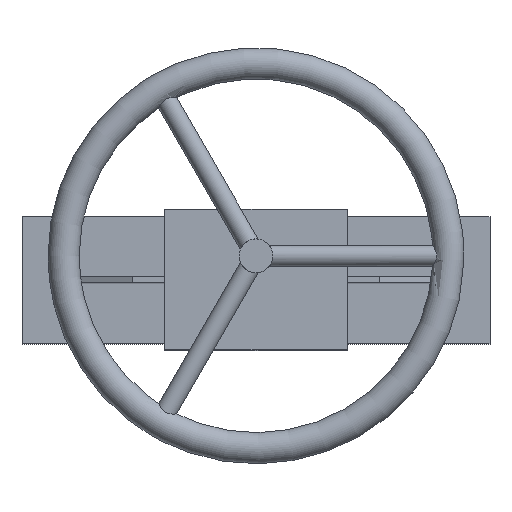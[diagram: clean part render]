
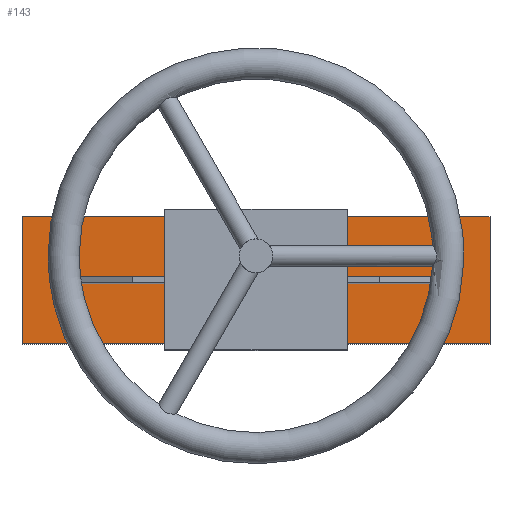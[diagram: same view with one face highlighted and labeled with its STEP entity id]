
A CAD part, top view. The second image highlights one B-rep face of the part: STEP entity #143.
In plain terms, the highlighted planar face has unit normal (0, 0, 1).
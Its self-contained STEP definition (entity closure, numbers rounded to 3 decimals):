
#143=ADVANCED_FACE('',(#1184,#1186,#1188),#1190,.T.);
#1184=FACE_BOUND('',#1185,.T.);
#1185=EDGE_LOOP('',(#2089,#2090,#2091,#2092,#2093,#2094,#2095,#2096));
#1186=FACE_BOUND('',#1187,.T.);
#1187=EDGE_LOOP('',(#2097,#2098,#2099,#2100));
#1188=FACE_BOUND('',#1189,.T.);
#1189=EDGE_LOOP('',(#2101));
#1190=PLANE('',#1191);
#1191=AXIS2_PLACEMENT_3D('',#1192,#1193,#1194);
#1192=CARTESIAN_POINT('',(0.,0.,280.));
#1193=DIRECTION('',(0.,0.,1.));
#1194=DIRECTION('',(1.,0.,0.));
#2089=ORIENTED_EDGE('',*,*,#2631,.F.);
#2090=ORIENTED_EDGE('',*,*,#2632,.T.);
#2091=ORIENTED_EDGE('',*,*,#2633,.T.);
#2092=ORIENTED_EDGE('',*,*,#2634,.T.);
#2093=ORIENTED_EDGE('',*,*,#2635,.F.);
#2094=ORIENTED_EDGE('',*,*,#2636,.T.);
#2095=ORIENTED_EDGE('',*,*,#2637,.T.);
#2096=ORIENTED_EDGE('',*,*,#2638,.T.);
#2097=ORIENTED_EDGE('',*,*,#2639,.F.);
#2098=ORIENTED_EDGE('',*,*,#2621,.F.);
#2099=ORIENTED_EDGE('',*,*,#2640,.F.);
#2100=ORIENTED_EDGE('',*,*,#2597,.F.);
#2101=ORIENTED_EDGE('',*,*,#2614,.F.);
#2597=EDGE_CURVE('',#2878,#2880,#2881,.T.);
#2614=EDGE_CURVE('',#2911,#2911,#2912,.F.);
#2621=EDGE_CURVE('',#2922,#2924,#2925,.F.);
#2631=EDGE_CURVE('',#2939,#2940,#2941,.T.);
#2632=EDGE_CURVE('',#2939,#2942,#2943,.T.);
#2633=EDGE_CURVE('',#2942,#2944,#2945,.T.);
#2634=EDGE_CURVE('',#2944,#2946,#2947,.T.);
#2635=EDGE_CURVE('',#2948,#2946,#2949,.T.);
#2636=EDGE_CURVE('',#2948,#2950,#2951,.T.);
#2637=EDGE_CURVE('',#2950,#2952,#2953,.T.);
#2638=EDGE_CURVE('',#2952,#2940,#2954,.T.);
#2639=EDGE_CURVE('',#2924,#2878,#2955,.T.);
#2640=EDGE_CURVE('',#2880,#2922,#2956,.T.);
#2878=VERTEX_POINT('',#3360);
#2880=VERTEX_POINT('',#3364);
#2881=LINE('',#3365,#3366);
#2911=VERTEX_POINT('',#3432);
#2912=CIRCLE('',#3433,13.);
#2922=VERTEX_POINT('',#3456);
#2924=VERTEX_POINT('',#3460);
#2925=LINE('',#3461,#3462);
#2939=VERTEX_POINT('',#3495);
#2940=VERTEX_POINT('',#3496);
#2941=LINE('',#3497,#3498);
#2942=VERTEX_POINT('',#3500);
#2943=LINE('',#3501,#3502);
#2944=VERTEX_POINT('',#3504);
#2945=LINE('',#3505,#3506);
#2946=VERTEX_POINT('',#3508);
#2947=LINE('',#3509,#3510);
#2948=VERTEX_POINT('',#3512);
#2949=LINE('',#3513,#3514);
#2950=VERTEX_POINT('',#3516);
#2951=LINE('',#3517,#3518);
#2952=VERTEX_POINT('',#3520);
#2953=LINE('',#3521,#3522);
#2954=LINE('',#3524,#3525);
#2955=LINE('',#3527,#3528);
#2956=LINE('',#3530,#3531);
#3360=CARTESIAN_POINT('',(-135.,-2.5,280.));
#3364=CARTESIAN_POINT('',(135.,-2.5,280.));
#3365=CARTESIAN_POINT('',(-135.,-2.5,280.));
#3366=VECTOR('',#3367,1.);
#3367=DIRECTION('',(1.,0.,0.));
#3432=CARTESIAN_POINT('',(0.,31.,280.));
#3433=AXIS2_PLACEMENT_3D('',#3434,#3435,#3436);
#3434=CARTESIAN_POINT('',(0.,18.,280.));
#3435=DIRECTION('',(-0.,-0.,-1.));
#3436=DIRECTION('',(0.,1.,0.));
#3456=CARTESIAN_POINT('',(135.,2.5,280.));
#3460=CARTESIAN_POINT('',(-135.,2.5,280.));
#3461=CARTESIAN_POINT('',(-135.,2.5,280.));
#3462=VECTOR('',#3463,1.);
#3463=DIRECTION('',(1.,0.,0.));
#3495=CARTESIAN_POINT('',(70.,-49.,280.));
#3496=CARTESIAN_POINT('',(-70.,-49.,280.));
#3497=CARTESIAN_POINT('',(70.,-49.,280.));
#3498=VECTOR('',#3499,1.);
#3499=DIRECTION('',(-1.,0.,0.));
#3500=CARTESIAN_POINT('',(180.,-49.,280.));
#3501=CARTESIAN_POINT('',(70.,-49.,280.));
#3502=VECTOR('',#3503,1.);
#3503=DIRECTION('',(1.,0.,0.));
#3504=CARTESIAN_POINT('',(180.,49.,280.));
#3505=CARTESIAN_POINT('',(180.,-49.,280.));
#3506=VECTOR('',#3507,1.);
#3507=DIRECTION('',(0.,1.,0.));
#3508=CARTESIAN_POINT('',(70.,49.,280.));
#3509=CARTESIAN_POINT('',(180.,49.,280.));
#3510=VECTOR('',#3511,1.);
#3511=DIRECTION('',(-1.,0.,0.));
#3512=CARTESIAN_POINT('',(-70.,49.,280.));
#3513=CARTESIAN_POINT('',(-70.,49.,280.));
#3514=VECTOR('',#3515,1.);
#3515=DIRECTION('',(1.,0.,0.));
#3516=CARTESIAN_POINT('',(-180.,49.,280.));
#3517=CARTESIAN_POINT('',(-70.,49.,280.));
#3518=VECTOR('',#3519,1.);
#3519=DIRECTION('',(-1.,0.,0.));
#3520=CARTESIAN_POINT('',(-180.,-49.,280.));
#3521=CARTESIAN_POINT('',(-180.,49.,280.));
#3522=VECTOR('',#3523,1.);
#3523=DIRECTION('',(0.,-1.,0.));
#3524=CARTESIAN_POINT('',(-180.,-49.,280.));
#3525=VECTOR('',#3526,1.);
#3526=DIRECTION('',(1.,0.,0.));
#3527=CARTESIAN_POINT('',(-135.,2.5,280.));
#3528=VECTOR('',#3529,1.);
#3529=DIRECTION('',(0.,-1.,0.));
#3530=CARTESIAN_POINT('',(135.,-2.5,280.));
#3531=VECTOR('',#3532,1.);
#3532=DIRECTION('',(0.,1.,0.));
